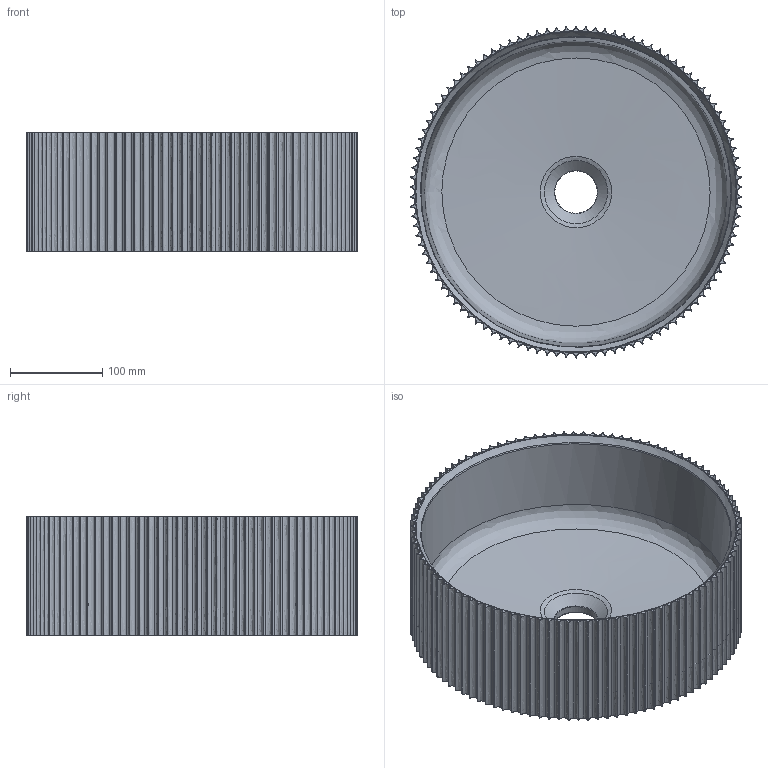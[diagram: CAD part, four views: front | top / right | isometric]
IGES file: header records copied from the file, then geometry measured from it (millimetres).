
Global section: file name: C:\Users\hp\Desktop\00634_00635_Mappi C\00634_00635_Mappi C.igs; native system: Rhinoceros ( Oct  8 2024 ); preprocessor: Trout Lake IGES 012 Oct  8 2024; date: 241017.124447; units: millimetre
Bounding box: 359.86 x 360 x 129.71 mm (x, y, z)
Surface area: 524933.6 mm2 (no closed solid volume)
Topology: 0 solids, 0 shells, 447 faces, 4309 edges, 4286 vertices
Faces by surface type: bspline 447
